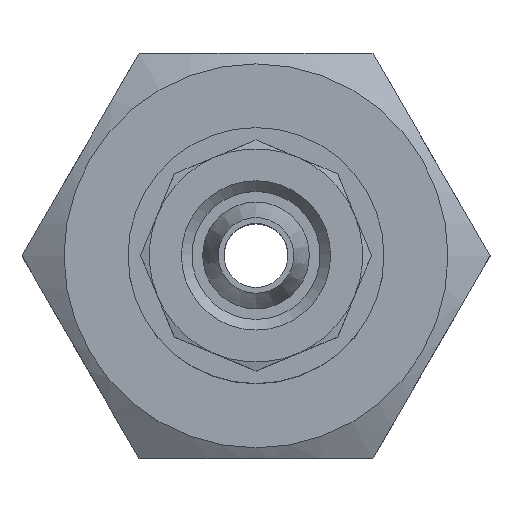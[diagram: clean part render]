
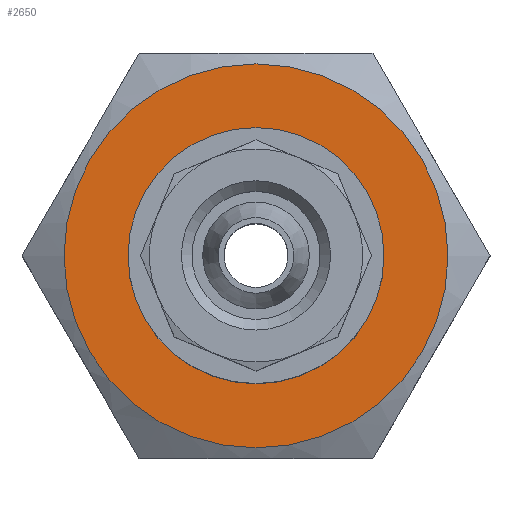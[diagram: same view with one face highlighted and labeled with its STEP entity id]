
A CAD part, top view. The second image highlights one B-rep face of the part: STEP entity #2650.
In plain terms, the highlighted planar face has unit normal (0, 0, 1) as drawn and (0, 1, 0) by its records, which use the part's own axes.
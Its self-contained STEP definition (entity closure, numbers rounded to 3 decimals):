
#749=PLANE('',#2512);
#801=ORIENTED_EDGE('',*,*,#1124,.F.);
#802=ORIENTED_EDGE('',*,*,#1123,.F.);
#997=CIRCLE('',#2511,4.25);
#998=CIRCLE('',#2513,9.);
#1046=VERTEX_POINT('',#2275);
#1047=VERTEX_POINT('',#2278);
#1123=EDGE_CURVE('',#1046,#1046,#997,.T.);
#1124=EDGE_CURVE('',#1047,#1047,#998,.T.);
#1242=EDGE_LOOP('',(#801));
#1243=EDGE_LOOP('',(#802));
#1344=FACE_BOUND('',#1242,.T.);
#1345=FACE_BOUND('',#1243,.T.);
#1962=DIRECTION('',(0.,1.,0.));
#1963=DIRECTION('',(0.,0.,-4.25));
#1964=DIRECTION('',(0.,1.,0.));
#1965=DIRECTION('',(1.,0.,0.));
#1966=DIRECTION('',(0.,-1.,0.));
#1967=DIRECTION('',(0.,0.,9.));
#2275=CARTESIAN_POINT('',(13.622,27.488,-4.25));
#2276=CARTESIAN_POINT('',(13.622,27.488,0.));
#2277=CARTESIAN_POINT('',(22.622,27.488,0.));
#2278=CARTESIAN_POINT('',(13.622,27.488,9.));
#2279=CARTESIAN_POINT('',(13.622,27.488,0.));
#2511=AXIS2_PLACEMENT_3D('',#2276,#1962,#1963);
#2512=AXIS2_PLACEMENT_3D('',#2277,#1964,#1965);
#2513=AXIS2_PLACEMENT_3D('',#2279,#1966,#1967);
#2650=ADVANCED_FACE('',(#1344,#1345),#749,.T.);
